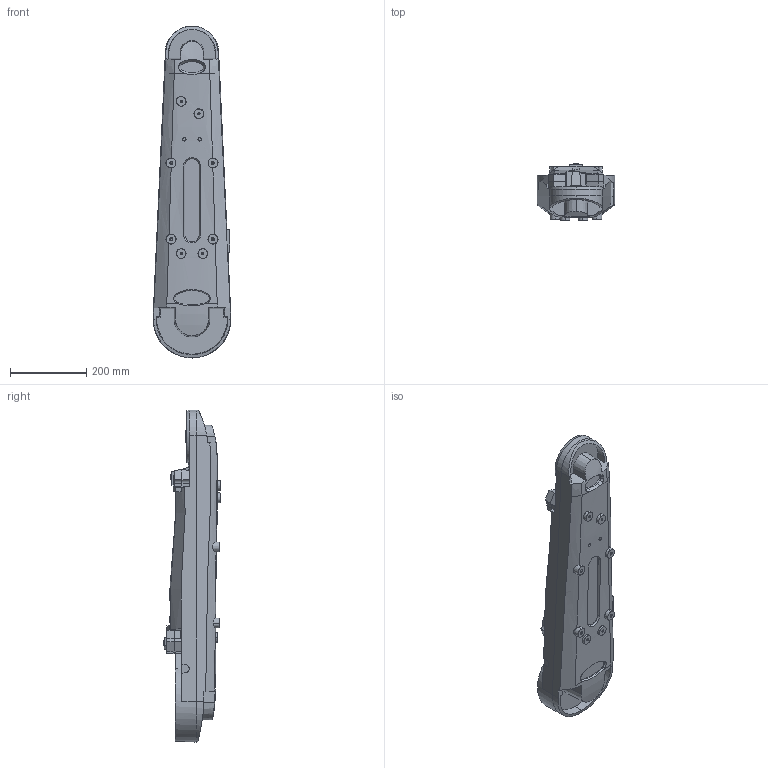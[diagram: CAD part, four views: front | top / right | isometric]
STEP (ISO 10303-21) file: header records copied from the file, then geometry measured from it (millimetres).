
FILE_DESCRIPTION (( 'STEP AP214' ), '1' );
FILE_NAME ('IRB2600-TYPEC_12kg-165_LINK2_CAD_rev01.STEP', '2018-06-26T01:17:40', ( 'ABB' ), ( 'ABB' ), 'SwSTEP 2.0', 'SolidWorks 2016', '' );
FILE_SCHEMA (( 'AUTOMOTIVE_DESIGN' ));
Length unit declared in the file: millimetre
Products named in the file (1): IRB2600-TYPEC_12kg-165_LINK2_CAD_rev01
Bounding box: 204.78 x 150 x 872.5 mm (x, y, z)
Volume: 12748130.2 mm3; surface area: 538162.1 mm2
Topology: 1 solids, 1 shells, 444 faces, 1142 edges, 715 vertices
Faces by surface type: plane 221, cone 126, cylinder 53, bspline 42, torus 2
Entity records: 20548 total; most frequent: CARTESIAN_POINT 8526, ORIENTED_EDGE 2240, DIRECTION 1898, EDGE_CURVE 1120, VERTEX_POINT 715, LINE 678, VECTOR 678, AXIS2_PLACEMENT_3D 610
